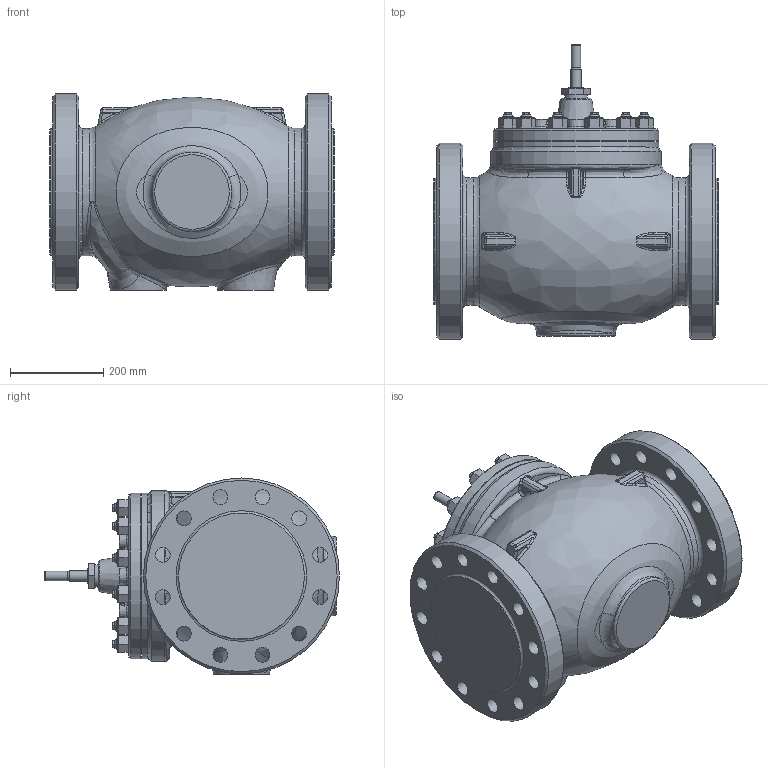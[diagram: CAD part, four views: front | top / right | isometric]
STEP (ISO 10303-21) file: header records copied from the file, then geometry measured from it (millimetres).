
FILE_DESCRIPTION(/* description */ (''),/* implementation_level */ '2;1');
FILE_NAME(/* name */ 'CV3xx_NPS_8_priruba_CL600.stp',/* time_stamp */ '2014-01-07T06:48:47+01:00',/* author */ (''),/* organization */ ('LDM'),/* preprocessor_version */ 'ST-DEVELOPER v11',/* originating_system */ 'SIEMENS PLM Software NX 7.0',/* authorisation */ '');
FILE_SCHEMA (('CONFIG_CONTROL_DESIGN'));
Length unit declared in the file: millimetre
Products named in the file (1): adamED63ysyr
Bounding box: 610 x 631.8 x 420 mm (x, y, z)
Volume: 72068099.3 mm3; surface area: 1553747.3 mm2
Topology: 1 solids, 13 shells, 878 faces, 2086 edges, 1251 vertices
Faces by surface type: cone 283, plane 258, cylinder 147, bspline 137, torus 45, sphere 8
Full cylindrical faces by diameter (mm): 14.376 x2, 17.97 x4, 20 x1, 22 x1, 24 x36, 31.8 x24, 33 x1, 36 x24, 48 x1, 170 x1, 253 x1, 269.9 x2, 273 x2, 354 x2, 366 x1, 420 x2
Entity records: 28367 total; most frequent: CARTESIAN_POINT 11262, ORIENTED_EDGE 3460, DIRECTION 3186, EDGE_CURVE 1730, AXIS2_PLACEMENT_3D 1435, EDGE_LOOP 1199, VERTEX_POINT 1109, ADVANCED_FACE 878
